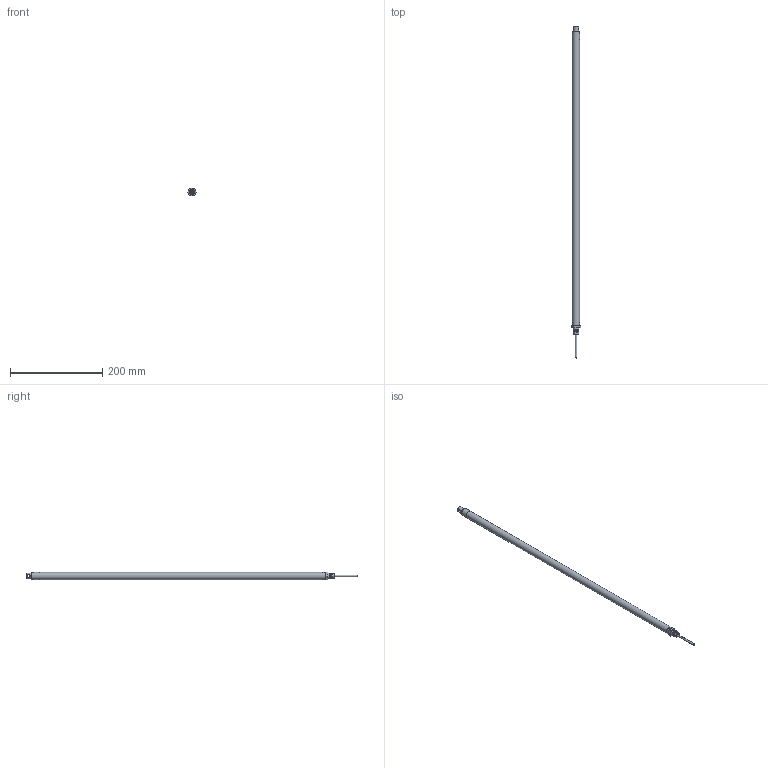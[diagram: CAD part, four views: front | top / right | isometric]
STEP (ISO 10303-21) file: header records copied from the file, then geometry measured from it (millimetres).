
FILE_DESCRIPTION(/* description */ ('Unknown'),/* implementation_level */ '2;1');
FILE_NAME(/* name */ '107.00166 Zylinder CI 1460_eingefahren',/* time_stamp */ '2018-07-06T17:30:48+02:00',/* author */ ('Unknown'),/* organization */ ('Unknown'),/* preprocessor_version */ 'ST-DEVELOPER v16.7',/* originating_system */ 'DEX',/* authorisation */ $);
FILE_SCHEMA (('AUTOMOTIVE_DESIGN {1 0 10303 214 3 1 1}'));
Length unit declared in the file: millimetre
Products named in the file (9): 107.00166; 121.00006; 142.00021; 125.00021; 115.00007_oa_0; 125.00031; 120.00006; 122.00001; 113.00002_70mm
Assembly tree (8 placements, depth 2):
  107.00166
    121.00006
    142.00021
    125.00021
    115.00007_oa_0
    125.00031
    120.00006
    122.00001
    113.00002_70mm
Bounding box: 19.63 x 721 x 17 mm (x, y, z)
Volume: 105656.4 mm3; surface area: 89782.9 mm2
Topology: 7 solids, 7 shells, 89 faces, 178 edges, 114 vertices
Faces by surface type: plane 37, cylinder 27, cone 21, torus 3, sphere 1
Full cylindrical faces by diameter (mm): 2.2 x1, 3.5 x1, 4 x1, 4.1 x1, 4.2 x1, 6 x1, 6.917 x2, 7.763 x2, 8 x3, 8.1 x3, 9 x1, 12 x2, 12.5 x1, 13 x2, 13.9 x2, 14 x2, 16 x1
Entity records: 2650 total; most frequent: CARTESIAN_POINT 397, DIRECTION 376, ORIENTED_EDGE 244, AXIS2_PLACEMENT_3D 170, FACE_BOUND 159, EDGE_LOOP 158, EDGE_CURVE 122, VERTEX_POINT 105
